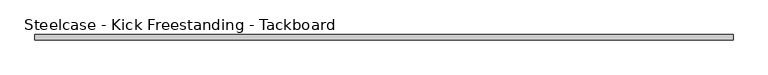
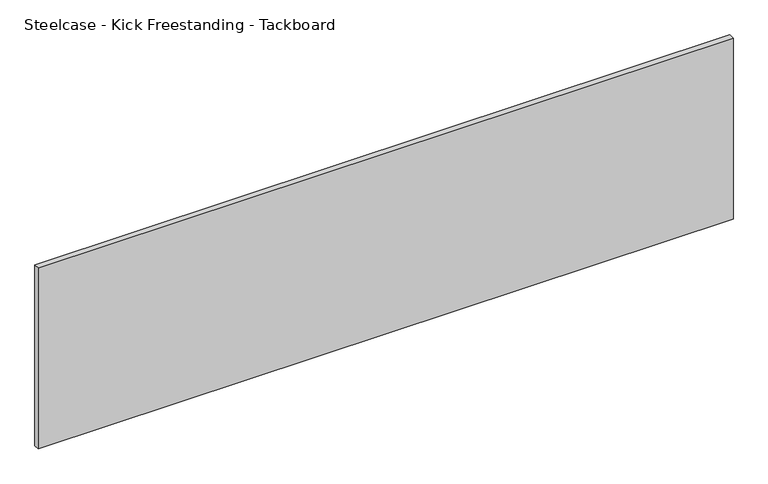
"""IFC4 building model written with IfcOpenShell, lengths in millimetres: furniture geometry, Steelcase - Kick Freestanding - Tackboard : 72W x 19H."""

import ifcopenshell
import ifcopenshell.guid

model = None  # the IFC model being written
_history = None  # IfcOwnerHistory: only IFC2X3 demands one
_inside = {}  # id of a spatial element -> (the spatial element, [elements in it])
_under = {}  # id of a project, library or spatial element -> (it, [spatial elements below it])
_declared = {}  # id of a project -> (the project, [libraries it declares])
_typed = {}  # id of a type object -> (the type object, [elements of that type])
_made_of = {}  # id of a material, layer set ... -> (it, [elements and type objects made of it])


def new_model(schema):
    """Start an empty IFC model of exactly this schema.

    Asked for "IFC4X3", IfcOpenShell would pick the latest addendum, in which some entities
    have other attributes; the version numbers below select the first issue.
    IFC2X3 requires an IfcOwnerHistory on every rooted entity: one is made here for all.
    """
    global model, _history
    if schema == "IFC4X3":
        model = ifcopenshell.file(schema_version=(4, 3, 0, 0))
    else:
        model = ifcopenshell.file(schema=schema)
    _inside.clear()
    _under.clear()
    _declared.clear()
    _typed.clear()
    _made_of.clear()
    _history = None
    if model.schema == "IFC2X3":
        org = make("IfcOrganization", Name="unknown")
        user = make(
            "IfcPersonAndOrganization",
            ThePerson=make("IfcPerson", FamilyName="unknown"),
            TheOrganization=org,
        )
        app = make(
            "IfcApplication",
            ApplicationDeveloper=org,
            Version="unknown",
            ApplicationFullName="unknown",
            ApplicationIdentifier="unknown",
        )
        _history = make(
            "IfcOwnerHistory",
            OwningUser=user,
            OwningApplication=app,
            ChangeAction="ADDED",
            CreationDate=0,
        )
    return model


def make(cls, **values):
    """One entity of the class cls with the attributes given. An attribute that is None is left unset."""
    return model.create_entity(
        cls, **{name: value for name, value in values.items() if value is not None}
    )


def rooted(cls, **values):
    """An entity with a GlobalId (a new one), such as an element, a storey or a relation."""
    return make(cls, GlobalId=ifcopenshell.guid.new(), OwnerHistory=_history, **values)


def si_unit(unit_type, name, prefix=None):
    """IfcSIUnit, for example si_unit("LENGTHUNIT", "METRE", prefix="MILLI")."""
    return make("IfcSIUnit", UnitType=unit_type, Prefix=prefix, Name=name)


def assignment(units):
    """IfcUnitAssignment: the units of a project."""
    return None if units is None else make("IfcUnitAssignment", Units=units)


def point(xyz):
    """IfcCartesianPoint."""
    return None if xyz is None else make("IfcCartesianPoint", Coordinates=xyz)


def direction(xyz):
    """IfcDirection."""
    return None if xyz is None else make("IfcDirection", DirectionRatios=xyz)


def frame(location, z_axis=None, x_axis=None):
    """IfcAxis2Placement3D, a coordinate frame: its origin and axes. An axis left out is left unset."""
    return make(
        "IfcAxis2Placement3D",
        Location=point(location),
        Axis=direction(z_axis),
        RefDirection=direction(x_axis),
    )


def origin():
    """The frame at (0, 0, 0) with its axes left unset."""
    return frame((0.0, 0.0, 0.0))


def place(relative_to, where):
    """IfcLocalPlacement: puts the frame where relative to a parent placement (None: the world)."""
    return make(
        "IfcLocalPlacement", PlacementRelTo=relative_to, RelativePlacement=where
    )


def context(
    kind, dimensions, precision=None, world=None, true_north=None, identifier=None
):
    """IfcGeometricRepresentationContext, for example the 3D "Model" context."""
    return make(
        "IfcGeometricRepresentationContext",
        ContextIdentifier=identifier,
        ContextType=kind,
        CoordinateSpaceDimension=dimensions,
        Precision=precision,
        WorldCoordinateSystem=world,
        TrueNorth=true_north,
    )


def project(units=None, contexts=None):
    """IfcProject with its units and contexts."""
    return rooted(
        "IfcProject",
        Name="project",
        RepresentationContexts=contexts,
        UnitsInContext=assignment(units),
    )


def spatial(cls, under=None, at=None, **own):
    """A site, building, storey or space (cls), placed at a placement, below another one or the project."""
    s = rooted(cls, ObjectPlacement=at, **own)
    if under is not None:
        _under.setdefault(under.id(), (under, []))[1].append(s)
    return s


def polyline(points):
    """IfcPolyline through the points."""
    return make("IfcPolyline", Points=[point(p) for p in points])


def outline(outer, holes=None, kind="AREA"):
    """IfcArbitraryClosedProfileDef: a profile drawn as a closed curve; with holes, ...WithVoids."""
    if holes is None:
        return make("IfcArbitraryClosedProfileDef", ProfileType=kind, OuterCurve=outer)
    return make(
        "IfcArbitraryProfileDefWithVoids",
        ProfileType=kind,
        OuterCurve=outer,
        InnerCurves=holes,
    )


def extrude(swept, where, along, depth):
    """IfcExtrudedAreaSolid: the profile swept, set in the frame where, extruded along a direction by depth."""
    return make(
        "IfcExtrudedAreaSolid",
        SweptArea=swept,
        Position=where,
        ExtrudedDirection=direction(along),
        Depth=depth,
    )


def shape(context_of_items, identifier, shape_type, items):
    """IfcShapeRepresentation: the items that make up one representation, for example the "Body"."""
    return make(
        "IfcShapeRepresentation",
        ContextOfItems=context_of_items,
        RepresentationIdentifier=identifier,
        RepresentationType=shape_type,
        Items=items,
    )


def source(mapping_origin, context_of_items, identifier, shape_type, items):
    """IfcRepresentationMap: a shape defined once, which mapped items show again and again."""
    return make(
        "IfcRepresentationMap",
        MappingOrigin=mapping_origin,
        MappedRepresentation=shape(context_of_items, identifier, shape_type, items),
    )


def transform(
    local_origin,
    x_axis=None,
    y_axis=None,
    z_axis=None,
    scale=None,
    scale2=None,
    scale3=None,
    uniform=True,
):
    """IfcCartesianTransformationOperator3D, or its non-uniform kind. x_axis, y_axis, z_axis: its Axis1, 2, 3."""
    if uniform:
        return make(
            "IfcCartesianTransformationOperator3D",
            Axis1=direction(x_axis),
            Axis2=direction(y_axis),
            LocalOrigin=point(local_origin),
            Scale=scale,
            Axis3=direction(z_axis),
        )
    return make(
        "IfcCartesianTransformationOperator3DnonUniform",
        Axis1=direction(x_axis),
        Axis2=direction(y_axis),
        LocalOrigin=point(local_origin),
        Scale=scale,
        Axis3=direction(z_axis),
        Scale2=scale2,
        Scale3=scale3,
    )


def mapped(mapping_source, mapping_target):
    """IfcMappedItem: shows the shape of a source again, moved by a transform."""
    return make(
        "IfcMappedItem", MappingSource=mapping_source, MappingTarget=mapping_target
    )


def made_of(thing, what):
    """Note that an element or type object is made of a material, layer set ...; save() writes the relation."""
    if what is not None:
        _made_of.setdefault(what.id(), (what, []))[1].append(thing)
    return thing


def element(
    cls,
    number,
    at=None,
    inside=None,
    cuts=None,
    type_object=None,
    material=None,
    context=None,
    identifier="Body",
    shape_type=None,
    held_by="IfcProductDefinitionShape",
    body=None,
    shapes=None,
    **own,
):
    """One element of the class cls, such as IfcWall. Its Tag is "e" and its number.

    at: its placement. inside: the storey or other place that contains it. cuts: it is an
    opening in that element (IfcRelVoidsElement). A single representation is given by context,
    identifier, shape_type and body (its items); several are given by shapes. held_by: the class
    of the entity that holds the representations. save() writes the other relations.
    """
    e = rooted(cls, Tag="e%d" % number, ObjectPlacement=at, **own)
    if body is not None:
        shapes = [shape(context, identifier, shape_type, body)]
    if shapes is not None:
        e.Representation = make(held_by, Representations=shapes)
    if inside is not None:
        _inside.setdefault(inside.id(), (inside, []))[1].append(e)
    if cuts is not None:
        rooted(
            "IfcRelVoidsElement", RelatingBuildingElement=cuts, RelatedOpeningElement=e
        )
    if type_object is not None:
        _typed.setdefault(type_object.id(), (type_object, []))[1].append(e)
    return made_of(e, material)


def aggregate(whole, parts):
    """IfcRelAggregates: a whole, such as a stair, and the parts it consists of."""
    return rooted("IfcRelAggregates", RelatingObject=whole, RelatedObjects=parts)


def save(model, path):
    """Write the relations noted so far, then the file.

    IfcRelAggregates (storeys below a building ...), IfcRelContainedInSpatialStructure (elements
    in a storey), IfcRelDefinesByType, IfcRelAssociatesMaterial and IfcRelDeclares: one each for
    every whole, place, type object, material and project.
    """
    for whole, parts in _under.values():
        aggregate(whole, parts)
    for where, things in _inside.values():
        rooted(
            "IfcRelContainedInSpatialStructure",
            RelatedElements=things,
            RelatingStructure=where,
        )
    for kind, things in _typed.values():
        rooted("IfcRelDefinesByType", RelatedObjects=things, RelatingType=kind)
    for what, things in _made_of.values():
        rooted("IfcRelAssociatesMaterial", RelatedObjects=things, RelatingMaterial=what)
    for by, libraries in _declared.values():
        rooted("IfcRelDeclares", RelatingContext=by, RelatedDefinitions=libraries)
    model.write(path)


def steelcase_kick_freestanding_tackboard_173487a6(model_context):
    return source(origin(), model_context, "Body", "SweptSolid", [
        extrude(outline(polyline([(38.1, -48.89754), (38.1, -34.92754), (1790.7, -34.92754), (1790.7, -48.89754), (38.1, -48.89754)])), frame((0.0, 0.0, 723.9), z_axis=(0.0, 0.0, 1.0), x_axis=(1.0, 0.0, 0.0)), (0.0, 0.0, 1.0), 482.6),
    ])


if __name__ == "__main__":
    model = new_model("IFC4")
    model_context = context("Model", 3, world=origin())
    ifc_project = project(units=[si_unit("LENGTHUNIT", "METRE", prefix="MILLI")], contexts=[model_context])
    site = spatial("IfcSite", under=ifc_project)
    building = spatial("IfcBuilding", under=site)
    placement = place(None, origin())
    steelcase_kick_freestanding_tackboard_shape = steelcase_kick_freestanding_tackboard_173487a6(model_context)
    element("IfcFurniture", 1, ObjectType="Steelcase - Kick Freestanding - Tackboard : 72W x 19H", at=placement, inside=building, context=model_context, shape_type="MappedRepresentation", body=[
        mapped(steelcase_kick_freestanding_tackboard_shape, transform((0.0, 0.0, 0.0), x_axis=(1.0, 0.0, 0.0), y_axis=(0.0, 1.0, 0.0), z_axis=(0.0, 0.0, 1.0))),
    ])
    save(model, "model.ifc")
